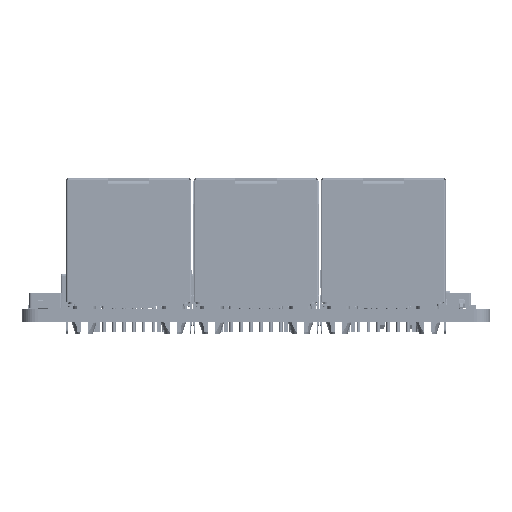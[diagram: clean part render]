
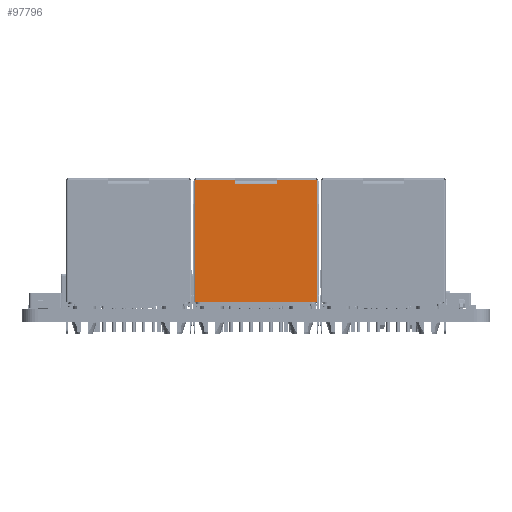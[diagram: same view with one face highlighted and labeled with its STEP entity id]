
A CAD part, front view. The second image highlights one B-rep face of the part: STEP entity #97796.
In plain terms, the highlighted planar face has unit normal (0, -1, 0).
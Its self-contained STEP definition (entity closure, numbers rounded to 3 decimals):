
#95871 = EDGE_CURVE('',#95872,#95874,#95876,.T.);
#95872 = VERTEX_POINT('',#95873);
#95873 = CARTESIAN_POINT('',(7.75,4.125,
    16.55));
#95874 = VERTEX_POINT('',#95875);
#95875 = CARTESIAN_POINT('',(2.65,4.125,
    16.55));
#95876 = LINE('',#95877,#95878);
#95877 = CARTESIAN_POINT('',(2.65,4.125,
    16.55));
#95878 = VECTOR('',#95879,1.);
#95879 = DIRECTION('',(-1.,0.,0.));
#96987 = VERTEX_POINT('',#96988);
#96988 = CARTESIAN_POINT('',(-2.65,4.125,
    16.55));
#96995 = EDGE_CURVE('',#96996,#96987,#96998,.T.);
#96996 = VERTEX_POINT('',#96997);
#96997 = CARTESIAN_POINT('',(-2.65,4.125,
    16.05));
#96998 = LINE('',#96999,#97000);
#96999 = CARTESIAN_POINT('',(-2.65,4.125,
    16.5));
#97000 = VECTOR('',#97001,1.);
#97001 = DIRECTION('',(0.,0.,1.));
#97757 = EDGE_CURVE('',#97758,#95874,#97760,.T.);
#97758 = VERTEX_POINT('',#97759);
#97759 = CARTESIAN_POINT('',(2.65,4.125,
    16.05));
#97760 = LINE('',#97761,#97762);
#97761 = CARTESIAN_POINT('',(2.65,4.125,
    16.5));
#97762 = VECTOR('',#97763,1.);
#97763 = DIRECTION('',(0.,0.,1.));
#97796 = ADVANCED_FACE('',(#97797),#97854,.T.);
#97797 = FACE_BOUND('',#97798,.T.);
#97798 = EDGE_LOOP('',(#97799,#97809,#97817,#97823,#97824,#97825,#97831,
    #97832,#97840,#97848));
#97799 = ORIENTED_EDGE('',*,*,#97800,.F.);
#97800 = EDGE_CURVE('',#97801,#97803,#97805,.T.);
#97801 = VERTEX_POINT('',#97802);
#97802 = CARTESIAN_POINT('',(7.8,4.125,
    0.95));
#97803 = VERTEX_POINT('',#97804);
#97804 = CARTESIAN_POINT('',(-7.8,4.125,
    0.95));
#97805 = LINE('',#97806,#97807);
#97806 = CARTESIAN_POINT('',(8.,4.125,
    0.95));
#97807 = VECTOR('',#97808,1.);
#97808 = DIRECTION('',(-1.,0.,0.));
#97809 = ORIENTED_EDGE('',*,*,#97810,.T.);
#97810 = EDGE_CURVE('',#97801,#97811,#97813,.T.);
#97811 = VERTEX_POINT('',#97812);
#97812 = CARTESIAN_POINT('',(7.8,4.125,
    16.55));
#97813 = LINE('',#97814,#97815);
#97814 = CARTESIAN_POINT('',(7.8,4.125,
    16.5));
#97815 = VECTOR('',#97816,1.);
#97816 = DIRECTION('',(0.,0.,1.));
#97817 = ORIENTED_EDGE('',*,*,#97818,.T.);
#97818 = EDGE_CURVE('',#97811,#95872,#97819,.T.);
#97819 = LINE('',#97820,#97821);
#97820 = CARTESIAN_POINT('',(2.65,4.125,
    16.55));
#97821 = VECTOR('',#97822,1.);
#97822 = DIRECTION('',(-1.,0.,0.));
#97823 = ORIENTED_EDGE('',*,*,#95871,.T.);
#97824 = ORIENTED_EDGE('',*,*,#97757,.F.);
#97825 = ORIENTED_EDGE('',*,*,#97826,.T.);
#97826 = EDGE_CURVE('',#97758,#96996,#97827,.T.);
#97827 = LINE('',#97828,#97829);
#97828 = CARTESIAN_POINT('',(0.,4.125,
    16.05));
#97829 = VECTOR('',#97830,1.);
#97830 = DIRECTION('',(-1.,0.,0.));
#97831 = ORIENTED_EDGE('',*,*,#96995,.T.);
#97832 = ORIENTED_EDGE('',*,*,#97833,.T.);
#97833 = EDGE_CURVE('',#96987,#97834,#97836,.T.);
#97834 = VERTEX_POINT('',#97835);
#97835 = CARTESIAN_POINT('',(-7.75,4.125,
    16.55));
#97836 = LINE('',#97837,#97838);
#97837 = CARTESIAN_POINT('',(2.65,4.125,
    16.55));
#97838 = VECTOR('',#97839,1.);
#97839 = DIRECTION('',(-1.,0.,0.));
#97840 = ORIENTED_EDGE('',*,*,#97841,.T.);
#97841 = EDGE_CURVE('',#97834,#97842,#97844,.T.);
#97842 = VERTEX_POINT('',#97843);
#97843 = CARTESIAN_POINT('',(-7.8,4.125,
    16.55));
#97844 = LINE('',#97845,#97846);
#97845 = CARTESIAN_POINT('',(2.65,4.125,
    16.55));
#97846 = VECTOR('',#97847,1.);
#97847 = DIRECTION('',(-1.,0.,0.));
#97848 = ORIENTED_EDGE('',*,*,#97849,.T.);
#97849 = EDGE_CURVE('',#97842,#97803,#97850,.T.);
#97850 = LINE('',#97851,#97852);
#97851 = CARTESIAN_POINT('',(-7.8,4.125,
    16.5));
#97852 = VECTOR('',#97853,1.);
#97853 = DIRECTION('',(0.,0.,-1.));
#97854 = PLANE('',#97855);
#97855 = AXIS2_PLACEMENT_3D('',#97856,#97857,#97858);
#97856 = CARTESIAN_POINT('',(2.65,4.125,
    16.5));
#97857 = DIRECTION('',(0.,-1.,0.));
#97858 = DIRECTION('',(1.,0.,0.));
